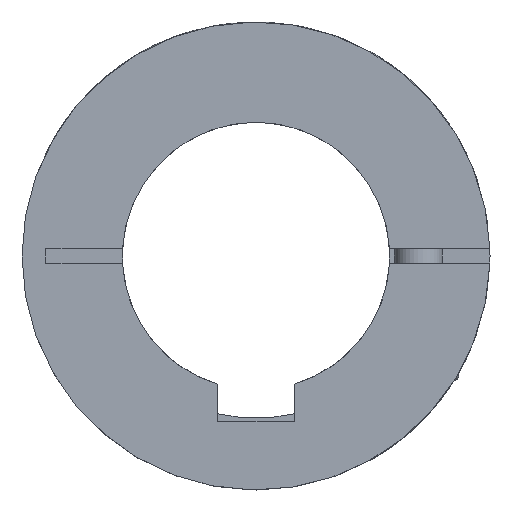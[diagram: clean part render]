
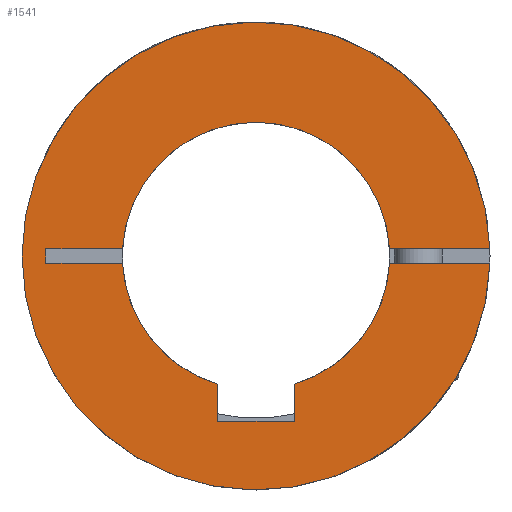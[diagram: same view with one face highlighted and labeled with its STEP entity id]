
A CAD part, left-side view. The second image highlights one B-rep face of the part: STEP entity #1541.
In plain terms, the highlighted planar face has unit normal (-1, 0, 0).
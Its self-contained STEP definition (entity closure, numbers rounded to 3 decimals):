
#36=PLANE('',#1752);
#141=LINE('',#2729,#256);
#144=LINE('',#2735,#259);
#145=LINE('',#2737,#260);
#160=LINE('',#2765,#275);
#163=LINE('',#2771,#278);
#179=LINE('',#2800,#294);
#180=LINE('',#2802,#295);
#181=LINE('',#2804,#296);
#256=VECTOR('',#2095,1.);
#259=VECTOR('',#2100,1.);
#260=VECTOR('',#2103,1.);
#275=VECTOR('',#2132,18.071);
#278=VECTOR('',#2139,18.071);
#294=VECTOR('',#2171,20.559);
#295=VECTOR('',#2174,20.559);
#296=VECTOR('',#2177,1.5);
#405=FACE_OUTER_BOUND('',#503,.T.);
#503=EDGE_LOOP('',(#1312,#1313,#1314,#1315,#1316,#1317,#1318,#1319,#1320,
#1321,#1322,#1323));
#642=CIRCLE('',#1712,24.5);
#652=CIRCLE('',#1725,14.);
#654=CIRCLE('',#1727,14.);
#655=CIRCLE('',#1729,14.);
#740=VERTEX_POINT('',#2659);
#741=VERTEX_POINT('',#2661);
#759=VERTEX_POINT('',#2701);
#760=VERTEX_POINT('',#2703);
#763=VERTEX_POINT('',#2709);
#764=VERTEX_POINT('',#2711);
#765=VERTEX_POINT('',#2715);
#766=VERTEX_POINT('',#2716);
#770=VERTEX_POINT('',#2727);
#772=VERTEX_POINT('',#2733);
#778=VERTEX_POINT('',#2763);
#779=VERTEX_POINT('',#2770);
#919=EDGE_CURVE('',#740,#741,#642,.T.);
#939=EDGE_CURVE('',#760,#759,#652,.T.);
#943=EDGE_CURVE('',#764,#763,#654,.T.);
#945=EDGE_CURVE('',#765,#766,#655,.T.);
#952=EDGE_CURVE('',#763,#770,#141,.T.);
#955=EDGE_CURVE('',#770,#772,#144,.T.);
#956=EDGE_CURVE('',#772,#760,#145,.T.);
#971=EDGE_CURVE('',#778,#759,#160,.T.);
#974=EDGE_CURVE('',#779,#765,#163,.T.);
#990=EDGE_CURVE('',#766,#741,#179,.T.);
#991=EDGE_CURVE('',#740,#764,#180,.T.);
#992=EDGE_CURVE('',#779,#778,#181,.T.);
#1312=ORIENTED_EDGE('',*,*,#939,.T.);
#1313=ORIENTED_EDGE('',*,*,#971,.F.);
#1314=ORIENTED_EDGE('',*,*,#992,.F.);
#1315=ORIENTED_EDGE('',*,*,#974,.T.);
#1316=ORIENTED_EDGE('',*,*,#945,.T.);
#1317=ORIENTED_EDGE('',*,*,#990,.T.);
#1318=ORIENTED_EDGE('',*,*,#919,.F.);
#1319=ORIENTED_EDGE('',*,*,#991,.T.);
#1320=ORIENTED_EDGE('',*,*,#943,.T.);
#1321=ORIENTED_EDGE('',*,*,#952,.T.);
#1322=ORIENTED_EDGE('',*,*,#955,.T.);
#1323=ORIENTED_EDGE('',*,*,#956,.T.);
#1541=ADVANCED_FACE('',(#405),#36,.T.);
#1712=AXIS2_PLACEMENT_3D('',#2662,#2037,#2038);
#1725=AXIS2_PLACEMENT_3D('',#2704,#2073,#2074);
#1727=AXIS2_PLACEMENT_3D('',#2712,#2079,#2080);
#1729=AXIS2_PLACEMENT_3D('',#2717,#2084,#2085);
#1752=AXIS2_PLACEMENT_3D('',#2803,#2175,#2176);
#2037=DIRECTION('center_axis',(1.,0.,0.));
#2038=DIRECTION('ref_axis',(0.,1.,0.));
#2073=DIRECTION('center_axis',(1.,0.,0.));
#2074=DIRECTION('ref_axis',(0.,0.,-1.));
#2079=DIRECTION('center_axis',(1.,0.,0.));
#2080=DIRECTION('ref_axis',(0.,0.,-1.));
#2084=DIRECTION('center_axis',(1.,0.,0.));
#2085=DIRECTION('ref_axis',(0.,0.,-1.));
#2095=DIRECTION('',(0.,0.,-1.));
#2100=DIRECTION('',(0.,1.,0.));
#2103=DIRECTION('',(0.,0.,1.));
#2132=DIRECTION('',(0.,-1.,0.));
#2139=DIRECTION('',(0.,-1.,0.));
#2171=DIRECTION('',(0.,-1.,0.));
#2174=DIRECTION('',(0.,1.,0.));
#2175=DIRECTION('center_axis',(-1.,0.,0.));
#2176=DIRECTION('ref_axis',(0.,-1.,0.));
#2177=DIRECTION('',(0.,0.,-1.));
#2659=CARTESIAN_POINT('',(0.,-24.489,-0.75));
#2661=CARTESIAN_POINT('',(0.,-24.489,0.75));
#2662=CARTESIAN_POINT('Origin',(0.,0.,0.));
#2701=CARTESIAN_POINT('',(0.,13.98,-0.75));
#2703=CARTESIAN_POINT('',(0.,4.,-13.416));
#2704=CARTESIAN_POINT('Origin',(0.,0.,0.));
#2709=CARTESIAN_POINT('',(0.,-4.,-13.416));
#2711=CARTESIAN_POINT('',(0.,-13.98,-0.75));
#2712=CARTESIAN_POINT('Origin',(0.,0.,0.));
#2715=CARTESIAN_POINT('',(0.,13.98,0.75));
#2716=CARTESIAN_POINT('',(0.,-13.98,0.75));
#2717=CARTESIAN_POINT('Origin',(0.,0.,0.));
#2727=CARTESIAN_POINT('',(0.,-4.,-17.3));
#2729=CARTESIAN_POINT('',(0.,-4.,7.925));
#2733=CARTESIAN_POINT('',(0.,4.,-17.3));
#2735=CARTESIAN_POINT('',(0.,0.,-17.3));
#2737=CARTESIAN_POINT('',(0.,4.,7.925));
#2763=CARTESIAN_POINT('',(0.,22.,-0.75));
#2765=CARTESIAN_POINT('',(0.,22.,-0.75));
#2770=CARTESIAN_POINT('',(0.,22.,0.75));
#2771=CARTESIAN_POINT('',(0.,22.,0.75));
#2800=CARTESIAN_POINT('',(0.,-3.929,0.75));
#2802=CARTESIAN_POINT('',(0.,-24.489,-0.75));
#2803=CARTESIAN_POINT('Origin',(0.,0.,24.5));
#2804=CARTESIAN_POINT('',(0.,22.,0.75));
